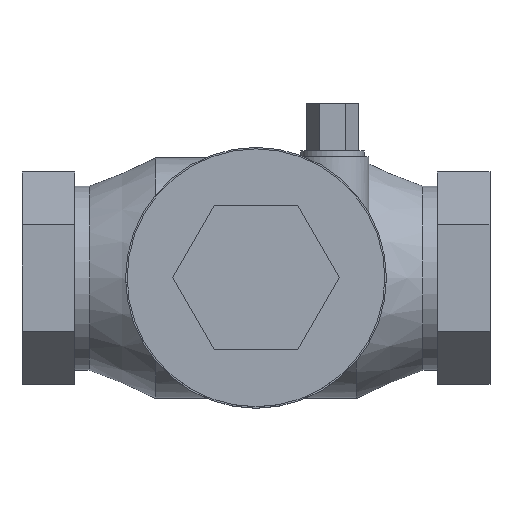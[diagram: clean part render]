
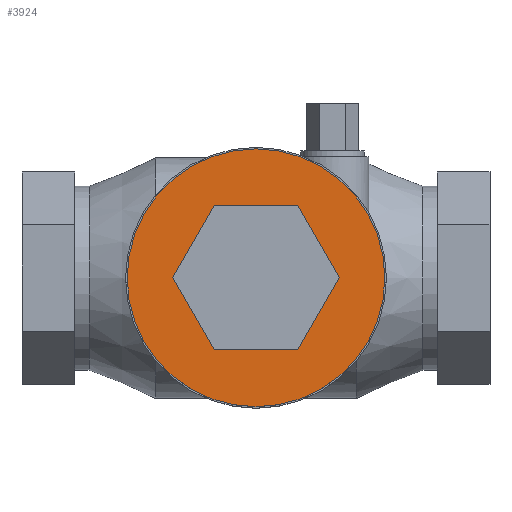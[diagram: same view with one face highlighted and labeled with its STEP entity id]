
A CAD part, top view. The second image highlights one B-rep face of the part: STEP entity #3924.
In plain terms, the highlighted planar face has unit normal (0, 0, 1).
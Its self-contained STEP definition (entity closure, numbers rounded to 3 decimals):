
#1442 = CYLINDRICAL_SURFACE('',#1443,0.868);
#1443 = AXIS2_PLACEMENT_3D('',#1444,#1445,#1446);
#1444 = CARTESIAN_POINT('',(1.575,0.,1.365));
#1445 = DIRECTION('',(0.,0.,1.));
#1446 = DIRECTION('',(1.,0.,-0.));
#3411 = PLANE('',#3412);
#3412 = AXIS2_PLACEMENT_3D('',#3413,#3414,#3415);
#3413 = CARTESIAN_POINT('',(1.575,-0.486,1.5));
#3414 = DIRECTION('',(0.,-1.,0.));
#3415 = DIRECTION('',(1.,0.,0.));
#3436 = VERTEX_POINT('',#3437);
#3437 = CARTESIAN_POINT('',(1.294,-0.486,1.5));
#3451 = PLANE('',#3452);
#3452 = AXIS2_PLACEMENT_3D('',#3453,#3454,#3455);
#3453 = CARTESIAN_POINT('',(1.154,-0.243,1.5));
#3454 = DIRECTION('',(-0.866,-0.5,0.));
#3455 = DIRECTION('',(0.5,-0.866,0.));
#3463 = EDGE_CURVE('',#3464,#3436,#3466,.T.);
#3464 = VERTEX_POINT('',#3465);
#3465 = CARTESIAN_POINT('',(1.856,-0.486,1.5));
#3466 = SURFACE_CURVE('',#3467,(#3471,#3478),.PCURVE_S1.);
#3467 = LINE('',#3468,#3469);
#3468 = CARTESIAN_POINT('',(1.575,-0.486,1.5));
#3469 = VECTOR('',#3470,1.);
#3470 = DIRECTION('',(-1.,0.,0.));
#3471 = PCURVE('',#3411,#3472);
#3472 = DEFINITIONAL_REPRESENTATION('',(#3473),#3477);
#3473 = LINE('',#3474,#3475);
#3474 = CARTESIAN_POINT('',(0.,0.));
#3475 = VECTOR('',#3476,1.);
#3476 = DIRECTION('',(-1.,0.));
#3477 = ( GEOMETRIC_REPRESENTATION_CONTEXT(2) 
PARAMETRIC_REPRESENTATION_CONTEXT() REPRESENTATION_CONTEXT('2D SPACE',''
  ) );
#3478 = PCURVE('',#3479,#3484);
#3479 = PLANE('',#3480);
#3480 = AXIS2_PLACEMENT_3D('',#3481,#3482,#3483);
#3481 = CARTESIAN_POINT('',(1.575,0.,1.5));
#3482 = DIRECTION('',(0.,0.,1.));
#3483 = DIRECTION('',(1.,0.,-0.));
#3484 = DEFINITIONAL_REPRESENTATION('',(#3485),#3489);
#3485 = LINE('',#3486,#3487);
#3486 = CARTESIAN_POINT('',(0.,-0.486));
#3487 = VECTOR('',#3488,1.);
#3488 = DIRECTION('',(-1.,0.));
#3489 = ( GEOMETRIC_REPRESENTATION_CONTEXT(2) 
PARAMETRIC_REPRESENTATION_CONTEXT() REPRESENTATION_CONTEXT('2D SPACE',''
  ) );
#3505 = PLANE('',#3506);
#3506 = AXIS2_PLACEMENT_3D('',#3507,#3508,#3509);
#3507 = CARTESIAN_POINT('',(1.996,-0.243,1.5));
#3508 = DIRECTION('',(0.866,-0.5,0.));
#3509 = DIRECTION('',(0.5,0.866,0.));
#3544 = VERTEX_POINT('',#3545);
#3545 = CARTESIAN_POINT('',(1.014,0.,1.5));
#3559 = PLANE('',#3560);
#3560 = AXIS2_PLACEMENT_3D('',#3561,#3562,#3563);
#3561 = CARTESIAN_POINT('',(1.154,0.243,1.5));
#3562 = DIRECTION('',(-0.866,0.5,0.));
#3563 = DIRECTION('',(-0.5,-0.866,0.));
#3571 = EDGE_CURVE('',#3436,#3544,#3572,.T.);
#3572 = SURFACE_CURVE('',#3573,(#3577,#3584),.PCURVE_S1.);
#3573 = LINE('',#3574,#3575);
#3574 = CARTESIAN_POINT('',(1.154,-0.243,1.5));
#3575 = VECTOR('',#3576,1.);
#3576 = DIRECTION('',(-0.5,0.866,0.));
#3577 = PCURVE('',#3451,#3578);
#3578 = DEFINITIONAL_REPRESENTATION('',(#3579),#3583);
#3579 = LINE('',#3580,#3581);
#3580 = CARTESIAN_POINT('',(0.,0.));
#3581 = VECTOR('',#3582,1.);
#3582 = DIRECTION('',(-1.,0.));
#3583 = ( GEOMETRIC_REPRESENTATION_CONTEXT(2) 
PARAMETRIC_REPRESENTATION_CONTEXT() REPRESENTATION_CONTEXT('2D SPACE',''
  ) );
#3584 = PCURVE('',#3479,#3585);
#3585 = DEFINITIONAL_REPRESENTATION('',(#3586),#3590);
#3586 = LINE('',#3587,#3588);
#3587 = CARTESIAN_POINT('',(-0.421,-0.243));
#3588 = VECTOR('',#3589,1.);
#3589 = DIRECTION('',(-0.5,0.866));
#3590 = ( GEOMETRIC_REPRESENTATION_CONTEXT(2) 
PARAMETRIC_REPRESENTATION_CONTEXT() REPRESENTATION_CONTEXT('2D SPACE',''
  ) );
#3620 = VERTEX_POINT('',#3621);
#3621 = CARTESIAN_POINT('',(1.294,0.486,1.5));
#3635 = PLANE('',#3636);
#3636 = AXIS2_PLACEMENT_3D('',#3637,#3638,#3639);
#3637 = CARTESIAN_POINT('',(1.575,0.486,1.5));
#3638 = DIRECTION('',(0.,1.,0.));
#3639 = DIRECTION('',(-1.,0.,0.));
#3647 = EDGE_CURVE('',#3544,#3620,#3648,.T.);
#3648 = SURFACE_CURVE('',#3649,(#3653,#3660),.PCURVE_S1.);
#3649 = LINE('',#3650,#3651);
#3650 = CARTESIAN_POINT('',(1.154,0.243,1.5));
#3651 = VECTOR('',#3652,1.);
#3652 = DIRECTION('',(0.5,0.866,0.));
#3653 = PCURVE('',#3559,#3654);
#3654 = DEFINITIONAL_REPRESENTATION('',(#3655),#3659);
#3655 = LINE('',#3656,#3657);
#3656 = CARTESIAN_POINT('',(0.,0.));
#3657 = VECTOR('',#3658,1.);
#3658 = DIRECTION('',(-1.,0.));
#3659 = ( GEOMETRIC_REPRESENTATION_CONTEXT(2) 
PARAMETRIC_REPRESENTATION_CONTEXT() REPRESENTATION_CONTEXT('2D SPACE',''
  ) );
#3660 = PCURVE('',#3479,#3661);
#3661 = DEFINITIONAL_REPRESENTATION('',(#3662),#3666);
#3662 = LINE('',#3663,#3664);
#3663 = CARTESIAN_POINT('',(-0.421,0.243));
#3664 = VECTOR('',#3665,1.);
#3665 = DIRECTION('',(0.5,0.866));
#3666 = ( GEOMETRIC_REPRESENTATION_CONTEXT(2) 
PARAMETRIC_REPRESENTATION_CONTEXT() REPRESENTATION_CONTEXT('2D SPACE',''
  ) );
#3696 = VERTEX_POINT('',#3697);
#3697 = CARTESIAN_POINT('',(1.856,0.486,1.5));
#3711 = PLANE('',#3712);
#3712 = AXIS2_PLACEMENT_3D('',#3713,#3714,#3715);
#3713 = CARTESIAN_POINT('',(1.996,0.243,1.5));
#3714 = DIRECTION('',(0.866,0.5,0.));
#3715 = DIRECTION('',(-0.5,0.866,0.));
#3723 = EDGE_CURVE('',#3620,#3696,#3724,.T.);
#3724 = SURFACE_CURVE('',#3725,(#3729,#3736),.PCURVE_S1.);
#3725 = LINE('',#3726,#3727);
#3726 = CARTESIAN_POINT('',(1.575,0.486,1.5));
#3727 = VECTOR('',#3728,1.);
#3728 = DIRECTION('',(1.,0.,0.));
#3729 = PCURVE('',#3635,#3730);
#3730 = DEFINITIONAL_REPRESENTATION('',(#3731),#3735);
#3731 = LINE('',#3732,#3733);
#3732 = CARTESIAN_POINT('',(0.,0.));
#3733 = VECTOR('',#3734,1.);
#3734 = DIRECTION('',(-1.,0.));
#3735 = ( GEOMETRIC_REPRESENTATION_CONTEXT(2) 
PARAMETRIC_REPRESENTATION_CONTEXT() REPRESENTATION_CONTEXT('2D SPACE',''
  ) );
#3736 = PCURVE('',#3479,#3737);
#3737 = DEFINITIONAL_REPRESENTATION('',(#3738),#3742);
#3738 = LINE('',#3739,#3740);
#3739 = CARTESIAN_POINT('',(0.,0.486));
#3740 = VECTOR('',#3741,1.);
#3741 = DIRECTION('',(1.,0.));
#3742 = ( GEOMETRIC_REPRESENTATION_CONTEXT(2) 
PARAMETRIC_REPRESENTATION_CONTEXT() REPRESENTATION_CONTEXT('2D SPACE',''
  ) );
#3772 = VERTEX_POINT('',#3773);
#3773 = CARTESIAN_POINT('',(2.136,0.,1.5));
#3794 = EDGE_CURVE('',#3696,#3772,#3795,.T.);
#3795 = SURFACE_CURVE('',#3796,(#3800,#3807),.PCURVE_S1.);
#3796 = LINE('',#3797,#3798);
#3797 = CARTESIAN_POINT('',(1.996,0.243,1.5));
#3798 = VECTOR('',#3799,1.);
#3799 = DIRECTION('',(0.5,-0.866,0.));
#3800 = PCURVE('',#3711,#3801);
#3801 = DEFINITIONAL_REPRESENTATION('',(#3802),#3806);
#3802 = LINE('',#3803,#3804);
#3803 = CARTESIAN_POINT('',(0.,0.));
#3804 = VECTOR('',#3805,1.);
#3805 = DIRECTION('',(-1.,0.));
#3806 = ( GEOMETRIC_REPRESENTATION_CONTEXT(2) 
PARAMETRIC_REPRESENTATION_CONTEXT() REPRESENTATION_CONTEXT('2D SPACE',''
  ) );
#3807 = PCURVE('',#3479,#3808);
#3808 = DEFINITIONAL_REPRESENTATION('',(#3809),#3813);
#3809 = LINE('',#3810,#3811);
#3810 = CARTESIAN_POINT('',(0.421,0.243));
#3811 = VECTOR('',#3812,1.);
#3812 = DIRECTION('',(0.5,-0.866));
#3813 = ( GEOMETRIC_REPRESENTATION_CONTEXT(2) 
PARAMETRIC_REPRESENTATION_CONTEXT() REPRESENTATION_CONTEXT('2D SPACE',''
  ) );
#3841 = EDGE_CURVE('',#3772,#3464,#3842,.T.);
#3842 = SURFACE_CURVE('',#3843,(#3847,#3854),.PCURVE_S1.);
#3843 = LINE('',#3844,#3845);
#3844 = CARTESIAN_POINT('',(1.996,-0.243,1.5));
#3845 = VECTOR('',#3846,1.);
#3846 = DIRECTION('',(-0.5,-0.866,0.));
#3847 = PCURVE('',#3505,#3848);
#3848 = DEFINITIONAL_REPRESENTATION('',(#3849),#3853);
#3849 = LINE('',#3850,#3851);
#3850 = CARTESIAN_POINT('',(0.,0.));
#3851 = VECTOR('',#3852,1.);
#3852 = DIRECTION('',(-1.,0.));
#3853 = ( GEOMETRIC_REPRESENTATION_CONTEXT(2) 
PARAMETRIC_REPRESENTATION_CONTEXT() REPRESENTATION_CONTEXT('2D SPACE',''
  ) );
#3854 = PCURVE('',#3479,#3855);
#3855 = DEFINITIONAL_REPRESENTATION('',(#3856),#3860);
#3856 = LINE('',#3857,#3858);
#3857 = CARTESIAN_POINT('',(0.421,-0.243));
#3858 = VECTOR('',#3859,1.);
#3859 = DIRECTION('',(-0.5,-0.866));
#3860 = ( GEOMETRIC_REPRESENTATION_CONTEXT(2) 
PARAMETRIC_REPRESENTATION_CONTEXT() REPRESENTATION_CONTEXT('2D SPACE',''
  ) );
#3875 = EDGE_CURVE('',#3876,#3876,#3878,.T.);
#3876 = VERTEX_POINT('',#3877);
#3877 = CARTESIAN_POINT('',(2.443,0.,1.5));
#3878 = SURFACE_CURVE('',#3879,(#3884,#3891),.PCURVE_S1.);
#3879 = CIRCLE('',#3880,0.868);
#3880 = AXIS2_PLACEMENT_3D('',#3881,#3882,#3883);
#3881 = CARTESIAN_POINT('',(1.575,0.,1.5));
#3882 = DIRECTION('',(0.,0.,-1.));
#3883 = DIRECTION('',(1.,0.,0.));
#3884 = PCURVE('',#1442,#3885);
#3885 = DEFINITIONAL_REPRESENTATION('',(#3886),#3890);
#3886 = LINE('',#3887,#3888);
#3887 = CARTESIAN_POINT('',(6.283,0.135));
#3888 = VECTOR('',#3889,1.);
#3889 = DIRECTION('',(-1.,0.));
#3890 = ( GEOMETRIC_REPRESENTATION_CONTEXT(2) 
PARAMETRIC_REPRESENTATION_CONTEXT() REPRESENTATION_CONTEXT('2D SPACE',''
  ) );
#3891 = PCURVE('',#3479,#3892);
#3892 = DEFINITIONAL_REPRESENTATION('',(#3893),#3901);
#3893 = ( BOUNDED_CURVE() B_SPLINE_CURVE(2,(#3894,#3895,#3896,#3897,
#3898,#3899,#3900),.UNSPECIFIED.,.T.,.F.) B_SPLINE_CURVE_WITH_KNOTS((1,2
    ,2,2,2,1),(-2.094,0.,2.094,4.189,
6.283,8.378),.UNSPECIFIED.) CURVE() 
GEOMETRIC_REPRESENTATION_ITEM() RATIONAL_B_SPLINE_CURVE((1.,0.5,1.,0.5,
1.,0.5,1.)) REPRESENTATION_ITEM('') );
#3894 = CARTESIAN_POINT('',(0.868,0.));
#3895 = CARTESIAN_POINT('',(0.868,-1.503));
#3896 = CARTESIAN_POINT('',(-0.434,-0.751));
#3897 = CARTESIAN_POINT('',(-1.735,0.));
#3898 = CARTESIAN_POINT('',(-0.434,0.751));
#3899 = CARTESIAN_POINT('',(0.868,1.503));
#3900 = CARTESIAN_POINT('',(0.868,0.));
#3901 = ( GEOMETRIC_REPRESENTATION_CONTEXT(2) 
PARAMETRIC_REPRESENTATION_CONTEXT() REPRESENTATION_CONTEXT('2D SPACE',''
  ) );
#3924 = ADVANCED_FACE('',(#3925,#3933),#3479,.T.);
#3925 = FACE_BOUND('',#3926,.T.);
#3926 = EDGE_LOOP('',(#3927,#3928,#3929,#3930,#3931,#3932));
#3927 = ORIENTED_EDGE('',*,*,#3463,.T.);
#3928 = ORIENTED_EDGE('',*,*,#3571,.T.);
#3929 = ORIENTED_EDGE('',*,*,#3647,.T.);
#3930 = ORIENTED_EDGE('',*,*,#3723,.T.);
#3931 = ORIENTED_EDGE('',*,*,#3794,.T.);
#3932 = ORIENTED_EDGE('',*,*,#3841,.T.);
#3933 = FACE_BOUND('',#3934,.T.);
#3934 = EDGE_LOOP('',(#3935));
#3935 = ORIENTED_EDGE('',*,*,#3875,.F.);
